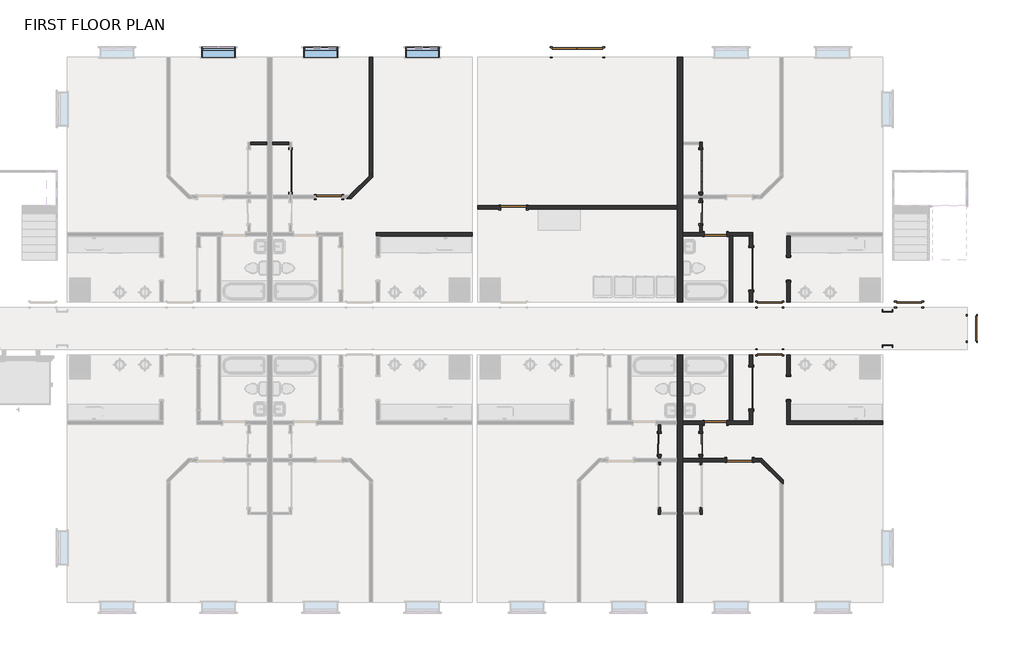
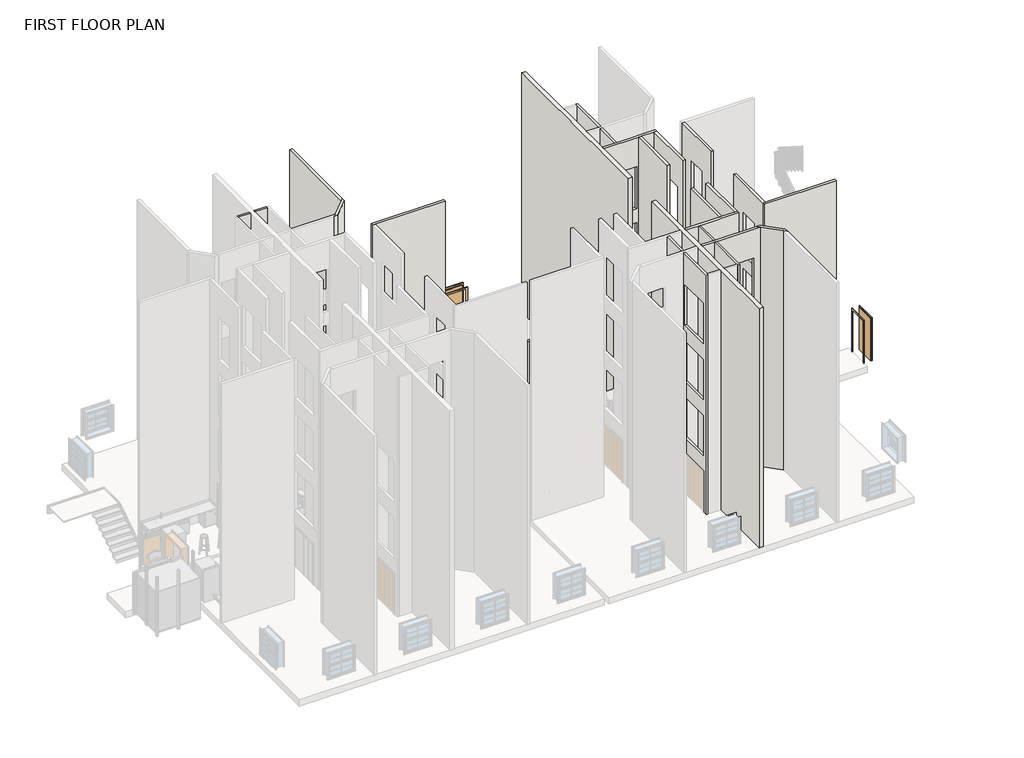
# One storey, part 3 of 7: 22 walls, 20 doors, 3 windows.
"""IFC4 building model written with IfcOpenShell, lengths in millimetres."""

from ifc_helpers import new_model, si_unit, frame, origin, origin_with_axes, place, context, project, spatial, polyline, outline, extrude, faceted_brep, transform, mapped, element, save
from components import door_3f50ce46, door_64f38517, door_5b7037ea, door_d932cd56, door_980512ef, door_bd9614a2, door_ff2ed9a9, door_670c294a, door_5d578f69, m_single_flush_3_x_7_d4803db9, m_single_flush_3_x_7_38056b6e, m_single_flush_3_x_7_309cf6f8, door_dc1527fd, door_ed16ebbe, door_053de108, door_d5256492, door_ef2e73a9, window_4464fd46, window_28d7aabf

model = new_model("IFC4")

# Units and contexts
model_context = context("Model", 3, world=origin())
ifc_project = project(units=[si_unit("LENGTHUNIT", "METRE", prefix="MILLI")], contexts=[model_context])

# Site, building, storey
site = spatial("IfcSite", under=ifc_project)
building = spatial("IfcBuilding", under=site)
storey = spatial("IfcBuildingStorey", under=building, Name="FIRST FLOOR PLAN", Elevation=0.0)

# Doors
placement = place(None, origin())
door_shape = door_3f50ce46(model_context)
element("IfcDoor", 1, ObjectType="Door-Bifold_2-Panel_Flush_SlimFold_Dunbarton : 2'- 6\" x 6' - 8\"", at=placement, inside=storey, context=model_context, shape_type="MappedRepresentation", body=[
    mapped(door_shape, transform((17708.9209578, 9824.3262881, 0.0), x_axis=(0.0, -1.0, 0.0), y_axis=(1.0, 0.0, 0.0), z_axis=(0.0, 0.0, 1.0))),
])
element("IfcDoor", 2, ObjectType="Door-Bifold_2-Panel_Flush_SlimFold_Dunbarton : 2'- 6\" x 6' - 8\"", at=placement, inside=storey, context=model_context, shape_type="MappedRepresentation", body=[
    mapped(door_shape, transform((16176.4960171, 1175.3012881, 0.0), x_axis=(0.0, 1.0, 0.0), y_axis=(-1.0, 0.0, 0.0), z_axis=(0.0, 0.0, 1.0))),
])
door_2_shape = door_64f38517(model_context)
element("IfcDoor", 3, ObjectType="Door-Bifold_2-Panel_Flush_SlimFold_Dunbarton : 2'- 6\" x 6' - 8\"", at=placement, inside=storey, context=model_context, shape_type="MappedRepresentation", body=[
    mapped(door_2_shape, transform((17708.9209578, 1175.3012881, 0.0), x_axis=(0.0, 1.0, 0.0), y_axis=(-1.0, 0.0, 0.0), z_axis=(0.0, 0.0, 1.0))),
])
door_3_shape = door_5b7037ea(model_context)
element("IfcDoor", 4, ObjectType="Door-Bifold 4-Panel Flush SlimFold_Dunbarton : 5'- 0\" x 6' - 8\"", at=placement, inside=storey, context=model_context, shape_type="MappedRepresentation", body=[
    mapped(door_3_shape, transform((2885.3209578, 11195.9262881, 0.0), x_axis=(0.0, -1.0, 0.0), y_axis=(1.0, 0.0, 0.0), z_axis=(0.0, 0.0, 1.0))),
])
element("IfcDoor", 5, ObjectType="Door-Bifold 4-Panel Flush SlimFold_Dunbarton : 5'- 0\" x 6' - 8\"", at=placement, inside=storey, context=model_context, shape_type="MappedRepresentation", body=[
    mapped(door_3_shape, transform((17708.9209578, 11195.9262881, 0.0), x_axis=(0.0, -1.0, 0.0), y_axis=(1.0, 0.0, 0.0), z_axis=(0.0, 0.0, 1.0))),
])
door_4_shape = door_d932cd56(model_context)
element("IfcDoor", 6, ObjectType="Door-Bifold 4-Panel Flush SlimFold_Dunbarton : 5'- 0\" x 6' - 8\"", at=placement, inside=storey, context=model_context, shape_type="MappedRepresentation", body=[
    mapped(door_4_shape, transform((19526.6084578, 7654.2137881, 0.0), x_axis=(0.0, -1.0, 0.0), y_axis=(1.0, 0.0, 0.0), z_axis=(0.0, 0.0, 1.0))),
])
door_5_shape = door_980512ef(model_context)
element("IfcDoor", 7, ObjectType="Door-Bifold 4-Panel Flush SlimFold_Dunbarton : 5'- 0\" x 6' - 8\"", at=placement, inside=storey, context=model_context, shape_type="MappedRepresentation", body=[
    mapped(door_5_shape, transform((19526.6084578, 3345.4137881, 0.0), x_axis=(0.0, 1.0, 0.0), y_axis=(-1.0, 0.0, 0.0), z_axis=(0.0, 0.0, 1.0))),
])
door_6_shape = door_bd9614a2(model_context)
element("IfcDoor", 8, ObjectType="Double-Flush : 72\" x 84\"", at=placement, inside=storey, context=model_context, shape_type="MappedRepresentation", body=[
    mapped(door_6_shape, transform((13236.6084875, 15479.2137881, 0.0), x_axis=(1.0, 0.0, 0.0), y_axis=(0.0, 1.0, 0.0), z_axis=(0.0, 0.0, 1.0))),
])
door_7_shape = door_ff2ed9a9(model_context)
element("IfcDoor", 9, ObjectType="M_Opening-Cased : 2'-10\"", at=placement, inside=storey, context=model_context, shape_type="MappedRepresentation", body=[
    mapped(door_7_shape, transform((20853.6709875, 3337.2251313, 0.0), x_axis=(0.0, -1.0, 0.0), y_axis=(1.0, 0.0, 0.0), z_axis=(0.0, 0.0, 1.0))),
])
door_8_shape = door_670c294a(model_context)
element("IfcDoor", 10, ObjectType="M_Opening-Cased : 2'-10\"", at=placement, inside=storey, context=model_context, shape_type="MappedRepresentation", body=[
    mapped(door_8_shape, transform((20853.6709875, 7662.4024448, 0.0), x_axis=(0.0, 1.0, 0.0), y_axis=(-1.0, 0.0, 0.0), z_axis=(0.0, 0.0, 1.0))),
])
door_9_shape = door_5d578f69(model_context)
element("IfcDoor", 11, ObjectType="M_Opening-Cased : 4'-0\"", at=placement, inside=storey, context=model_context, shape_type="MappedRepresentation", body=[
    mapped(door_9_shape, transform((24432.1084875, 5508.0024448, 0.0), x_axis=(0.0, 1.0, 0.0), y_axis=(-1.0, 0.0, 0.0), z_axis=(0.0, 0.0, 1.0))),
])
m_single_flush_3_x_7_shape = m_single_flush_3_x_7_d4803db9(model_context)
element("IfcDoor", 12, ObjectType="M_Single-Flush : 3' x 7'", at=placement, inside=storey, context=model_context, shape_type="MappedRepresentation", body=[
    mapped(m_single_flush_3_x_7_shape, transform((4266.1959875, 10252.9512881, 0.0), x_axis=(1.0, 0.0, 0.0), y_axis=(0.0, 1.0, 0.0), z_axis=(0.0, 0.0, 1.0))),
])
m_single_flush_3_x_7_2_shape = m_single_flush_3_x_7_38056b6e(model_context)
element("IfcDoor", 13, ObjectType="M_Single-Flush : 3' x 7'", at=placement, inside=storey, context=model_context, shape_type="MappedRepresentation", body=[
    mapped(m_single_flush_3_x_7_2_shape, transform((19089.7959875, 746.6762881, 0.0), x_axis=(1.0, 0.0, 0.0), y_axis=(0.0, 1.0, 0.0), z_axis=(0.0, 0.0, 1.0))),
])
element("IfcDoor", 14, ObjectType="M_Single-Flush : 3' x 7'", at=placement, inside=storey, context=model_context, shape_type="MappedRepresentation", body=[
    mapped(m_single_flush_3_x_7_2_shape, transform((10922.9084875, 9875.1262881, 0.0), x_axis=(-1.0, 0.0, 0.0), y_axis=(0.0, -1.0, 0.0), z_axis=(0.0, 0.0, 1.0))),
])
m_single_flush_3_x_7_3_shape = m_single_flush_3_x_7_309cf6f8(model_context)
element("IfcDoor", 15, ObjectType="M_Single-Flush : 3' x 7'", at=placement, inside=storey, context=model_context, shape_type="MappedRepresentation", body=[
    mapped(m_single_flush_3_x_7_3_shape, transform((25216.7084875, 6363.4137881, 0.0), x_axis=(-1.0, 0.0, 0.0), y_axis=(0.0, -1.0, 0.0), z_axis=(0.0, 0.0, 1.0))),
])
door_10_shape = door_dc1527fd(model_context)
element("IfcDoor", 16, ObjectType="Single-Flush : 32\" X 84\"", at=placement, inside=storey, context=model_context, shape_type="MappedRepresentation", body=[
    mapped(door_10_shape, transform((18226.1959875, 2089.7012881, 0.0), x_axis=(1.0, 0.0, 0.0), y_axis=(0.0, 1.0, 0.0), z_axis=(0.0, 0.0, 1.0))),
])
door_11_shape = door_ed16ebbe(model_context)
element("IfcDoor", 17, ObjectType="Single-Flush : 32\" X 84\"", at=placement, inside=storey, context=model_context, shape_type="MappedRepresentation", body=[
    mapped(door_11_shape, transform((18226.1959875, 8909.9262881, 0.0), x_axis=(1.0, 0.0, 0.0), y_axis=(0.0, 1.0, 0.0), z_axis=(0.0, 0.0, 1.0))),
])
door_12_shape = door_053de108(model_context)
element("IfcDoor", 18, ObjectType="Single-Flush : 36' x 84\"", at=placement, inside=storey, context=model_context, shape_type="MappedRepresentation", body=[
    mapped(door_12_shape, transform((20182.1584875, 6363.4137881, 0.0), x_axis=(1.0, 0.0, 0.0), y_axis=(0.0, 1.0, 0.0), z_axis=(0.0, 0.0, 1.0))),
])
door_13_shape = door_d5256492(model_context)
element("IfcDoor", 19, ObjectType="Single-Flush : 36' x 84\"", at=placement, inside=storey, context=model_context, shape_type="MappedRepresentation", body=[
    mapped(door_13_shape, transform((20182.1584875, 4636.2137881, 0.0), x_axis=(1.0, 0.0, 0.0), y_axis=(0.0, 1.0, 0.0), z_axis=(0.0, 0.0, 1.0))),
])
door_14_shape = door_ef2e73a9(model_context)
element("IfcDoor", 20, ObjectType="Single-Flush : 36' x 84\"", at=placement, inside=storey, context=model_context, shape_type="MappedRepresentation", body=[
    mapped(door_14_shape, transform((27483.0237309, 5499.8137881, 0.0), x_axis=(0.0, -1.0, 0.0), y_axis=(1.0, 0.0, 0.0), z_axis=(0.0, 0.0, 1.0))),
])

# Walls
element("IfcWall", 21, ObjectType="A30A - 8\" MASONRY WALL", at=placement, inside=storey, context=model_context, shape_type="Brep", body=[
    faceted_brep([(16845.7084875, 15304.2137881, 0.0), (16845.7084875, 9937.0387881, 0.0), (16845.7084875, 9813.2137881, 0.0), (16845.7084875, 6460.4137881, 0.0), (16845.7084875, 6460.4137881, 12141.2), (16845.7084875, 8848.0137881, 12141.2), (16845.7084875, 8971.8387881, 12141.2), (16845.7084875, 10191.0387881, 12141.2), (16845.7084875, 10314.8637881, 12141.2), (16845.7084875, 12138.9012881, 12141.2), (16845.7084875, 12227.8012881, 12141.2), (16845.7084875, 15304.2137881, 12141.2), (17039.7084875, 15304.2137881, 0.0), (17039.7084875, 15304.2137881, 12141.2), (17039.7084875, 12227.8012881, 12141.2), (17039.7084875, 12138.9012881, 12141.2), (17039.7084875, 10314.8637881, 12141.2), (17039.7084875, 10191.0387881, 12141.2), (17039.7084875, 8971.8387881, 12141.2), (17039.7084875, 8848.0137881, 12141.2), (17039.7084875, 6460.4137881, 12141.2), (17039.7084875, 6460.4137881, 0.0), (17039.7084875, 8848.0137881, 0.0), (17039.7084875, 8971.8387881, 0.0), (17039.7084875, 10191.0387881, 0.0), (17039.7084875, 10314.8637881, 0.0), (17039.7084875, 12138.9012881, 0.0), (17039.7084875, 12227.8012881, 0.0)], [[[0, 1, 2, 3, 4, 5, 6, 7, 8, 9, 10, 11]], [[12, 13, 14, 15, 16, 17, 18, 19, 20, 21, 22, 23, 24, 25, 26, 27]], [[3, 2, 1, 0, 12, 27, 26, 25, 24, 23, 22, 21]], [[11, 10, 9, 8, 7, 6, 5, 4, 20, 19, 18, 17, 16, 15, 14, 13]], [[0, 11, 13, 12]], [[4, 3, 21, 20]]]),
])
element("IfcWall", 22, ObjectType="A30A - 8\" MASONRY WALL", at=placement, inside=storey, context=model_context, shape_type="Brep", body=[
    faceted_brep([(17039.7084875, -4401.5862119, 0.0), (17039.7084875, -1228.1737119, 0.0), (17039.7084875, -1139.2737119, 0.0), (17039.7084875, 684.7637881, 0.0), (17039.7084875, 808.5887881, 0.0), (17039.7084875, 2027.7887881, 0.0), (17039.7084875, 2151.6137881, 0.0), (17039.7084875, 4539.2137881, 0.0), (17039.7084875, 4539.2137881, 12141.2), (17039.7084875, 2151.6137881, 12141.2), (17039.7084875, 2027.7887881, 12141.2), (17039.7084875, 808.5887881, 12141.2), (17039.7084875, 684.7637881, 12141.2), (17039.7084875, -1139.2737119, 12141.2), (17039.7084875, -1228.1737119, 12141.2), (17039.7084875, -4401.5862119, 12141.2), (16845.7084875, -4401.5862119, 0.0), (16845.7084875, -4401.5862119, 12141.2), (16845.7084875, -1228.1737119, 12141.2), (16845.7084875, -1139.2737119, 12141.2), (16845.7084875, 684.7637881, 12141.2), (16845.7084875, 808.5887881, 12141.2), (16845.7084875, 2027.7887881, 12141.2), (16845.7084875, 2151.6137881, 12141.2), (16845.7084875, 4539.2137881, 12141.2), (16845.7084875, 4539.2137881, 0.0), (16845.7084875, 2151.6137881, 0.0), (16845.7084875, 2027.7887881, 0.0), (16845.7084875, 808.5887881, 0.0), (16845.7084875, 684.7637881, 0.0), (16845.7084875, -1139.2737119, 0.0), (16845.7084875, -1228.1737119, 0.0)], [[[0, 1, 2, 3, 4, 5, 6, 7, 8, 9, 10, 11, 12, 13, 14, 15]], [[16, 17, 18, 19, 20, 21, 22, 23, 24, 25, 26, 27, 28, 29, 30, 31]], [[7, 6, 5, 4, 3, 2, 1, 0, 16, 31, 30, 29, 28, 27, 26, 25]], [[15, 14, 13, 12, 11, 10, 9, 8, 24, 23, 22, 21, 20, 19, 18, 17]], [[0, 15, 17, 16]], [[8, 7, 25, 24]]]),
])
element("IfcWall", 23, ObjectType="Generic - 3 1/2\"", at=placement, inside=storey, context=model_context, shape_type="SweptSolid", body=[
    extrude(outline(polyline([(2021.3084875, 12138.9012881), (1411.7084875, 12138.9012881), (1411.7084875, 12227.8012881), (2021.3084875, 12227.8012881), (2021.3084875, 12138.9012881)])), origin_with_axes(), (0.0, 0.0, 1.0), 12141.2),
])
element("IfcWall", 24, ObjectType="Generic - 3 1/2\"", at=placement, inside=storey, context=model_context, shape_type="SweptSolid", body=[
    extrude(outline(polyline([(2215.3084875, 12227.8012881), (2824.9084875, 12227.8012881), (2824.9084875, 12138.9012881), (2215.3084875, 12138.9012881), (2215.3084875, 12227.8012881)])), origin_with_axes(), (0.0, 0.0, 1.0), 12141.2),
])
element("IfcWall", 25, ObjectType="Generic - 3 1/2\"", at=placement, inside=storey, context=model_context, shape_type="Brep", body=[
    faceted_brep([(17737.4084875, 12227.8012881, 0.0), (17737.4084875, 12227.8012881, 12141.2), (17737.4084875, 10314.8637881, 12141.2), (17737.4084875, 10314.8637881, 0.0), (17737.4084875, 10433.9262881, 0.0), (17737.4084875, 10433.9262881, 2032.0), (17737.4084875, 11957.9262881, 2032.0), (17737.4084875, 11957.9262881, 0.0), (17737.4084875, 11961.1012881, 4876.8), (17737.4084875, 11961.1012881, 2844.8), (17737.4084875, 10437.1012881, 2844.8), (17737.4084875, 10437.1012881, 4876.8), (17737.4084875, 11961.1012881, 7721.6), (17737.4084875, 11961.1012881, 5689.6), (17737.4084875, 10437.1012881, 5689.6), (17737.4084875, 10437.1012881, 7721.6), (17737.4084875, 11961.1012881, 10566.4), (17737.4084875, 11961.1012881, 8534.4), (17737.4084875, 10437.1012881, 8534.4), (17737.4084875, 10437.1012881, 10566.4), (17648.5084875, 12227.8012881, 12141.2), (17648.5084875, 12227.8012881, 0.0), (17648.5084875, 12138.9012881, 0.0), (17648.5084875, 11957.9262881, 0.0), (17648.5084875, 11957.9262881, 2032.0), (17648.5084875, 10433.9262881, 2032.0), (17648.5084875, 10433.9262881, 0.0), (17648.5084875, 10314.8637881, 0.0), (17648.5084875, 10314.8637881, 12141.2), (17648.5084875, 12138.9012881, 12141.2), (17648.5084875, 11961.1012881, 2844.8), (17648.5084875, 11961.1012881, 4876.8), (17648.5084875, 10437.1012881, 4876.8), (17648.5084875, 10437.1012881, 2844.8), (17648.5084875, 11961.1012881, 5689.6), (17648.5084875, 11961.1012881, 7721.6), (17648.5084875, 10437.1012881, 7721.6), (17648.5084875, 10437.1012881, 5689.6), (17648.5084875, 11961.1012881, 8534.4), (17648.5084875, 11961.1012881, 10566.4), (17648.5084875, 10437.1012881, 10566.4), (17648.5084875, 10437.1012881, 8534.4)], [[[0, 1, 2, 3, 4, 5, 6, 7], [8, 9, 10, 11], [12, 13, 14, 15], [16, 17, 18, 19]], [[20, 21, 22, 23, 24, 25, 26, 27, 28, 29], [30, 31, 32, 33], [34, 35, 36, 37], [38, 39, 40, 41]], [[21, 0, 7, 23, 22]], [[26, 4, 3, 27]], [[1, 20, 29, 28, 2]], [[1, 0, 21, 20]], [[25, 5, 4, 26]], [[5, 25, 24, 6]], [[6, 24, 23, 7]], [[3, 2, 28, 27]], [[31, 30, 9, 8]], [[32, 31, 8, 11]], [[33, 32, 11, 10]], [[30, 33, 10, 9]], [[35, 34, 13, 12]], [[36, 35, 12, 15]], [[37, 36, 15, 14]], [[34, 37, 14, 13]], [[39, 38, 17, 16]], [[40, 39, 16, 19]], [[41, 40, 19, 18]], [[38, 41, 18, 17]]]),
    faceted_brep([(17737.4084875, 8971.8387881, 12141.2), (17737.4084875, 8971.8387881, 0.0), (17737.4084875, 9290.9262881, 0.0), (17737.4084875, 9290.9262881, 2032.0), (17737.4084875, 10052.9262881, 2032.0), (17737.4084875, 10052.9262881, 0.0), (17737.4084875, 10191.0387881, 0.0), (17737.4084875, 10191.0387881, 12141.2), (17737.4084875, 9297.2762881, 2844.8), (17737.4084875, 9297.2762881, 4876.8), (17737.4084875, 10059.2762881, 4876.8), (17737.4084875, 10059.2762881, 2844.8), (17737.4084875, 9297.2762881, 5689.6), (17737.4084875, 9297.2762881, 7721.6), (17737.4084875, 10059.2762881, 7721.6), (17737.4084875, 10059.2762881, 5689.6), (17737.4084875, 9297.2762881, 8534.4), (17737.4084875, 9297.2762881, 10566.4), (17737.4084875, 10059.2762881, 10566.4), (17737.4084875, 10059.2762881, 8534.4), (17648.5084875, 8971.8387881, 0.0), (17648.5084875, 8971.8387881, 12141.2), (17648.5084875, 10191.0387881, 12141.2), (17648.5084875, 10191.0387881, 0.0), (17648.5084875, 10052.9262881, 0.0), (17648.5084875, 10052.9262881, 2032.0), (17648.5084875, 9290.9262881, 2032.0), (17648.5084875, 9290.9262881, 0.0), (17648.5084875, 9297.2762881, 4876.8), (17648.5084875, 9297.2762881, 2844.8), (17648.5084875, 10059.2762881, 2844.8), (17648.5084875, 10059.2762881, 4876.8), (17648.5084875, 9297.2762881, 7721.6), (17648.5084875, 9297.2762881, 5689.6), (17648.5084875, 10059.2762881, 5689.6), (17648.5084875, 10059.2762881, 7721.6), (17648.5084875, 9297.2762881, 10566.4), (17648.5084875, 9297.2762881, 8534.4), (17648.5084875, 10059.2762881, 8534.4), (17648.5084875, 10059.2762881, 10566.4)], [[[0, 1, 2, 3, 4, 5, 6, 7], [8, 9, 10, 11], [12, 13, 14, 15], [16, 17, 18, 19]], [[20, 21, 22, 23, 24, 25, 26, 27], [28, 29, 30, 31], [32, 33, 34, 35], [36, 37, 38, 39]], [[1, 20, 27, 2]], [[5, 24, 23, 6]], [[21, 0, 7, 22]], [[7, 6, 23, 22]], [[1, 0, 21, 20]], [[25, 4, 3, 26]], [[4, 25, 24, 5]], [[26, 3, 2, 27]], [[9, 8, 29, 28]], [[10, 9, 28, 31]], [[11, 10, 31, 30]], [[8, 11, 30, 29]], [[13, 12, 33, 32]], [[14, 13, 32, 35]], [[15, 14, 35, 34]], [[12, 15, 34, 33]], [[17, 16, 37, 36]], [[18, 17, 36, 39]], [[19, 18, 39, 38]], [[16, 19, 38, 37]]]),
])
element("IfcWall", 26, ObjectType="Generic - 3 1/2\"", at=placement, inside=storey, context=model_context, shape_type="Brep", body=[
    faceted_brep([(17648.5084875, -1228.1737119, 0.0), (17648.5084875, -1228.1737119, 12141.2), (17648.5084875, -1139.2737119, 12141.2), (17648.5084875, 684.7637881, 12141.2), (17648.5084875, 684.7637881, 0.0), (17648.5084875, 565.7012881, 0.0), (17648.5084875, 565.7012881, 2032.0), (17648.5084875, -958.2987119, 2032.0), (17648.5084875, -958.2987119, 0.0), (17648.5084875, -1139.2737119, 0.0), (17648.5084875, -961.4737119, 4876.8), (17648.5084875, -961.4737119, 2844.8), (17648.5084875, 562.5262881, 2844.8), (17648.5084875, 562.5262881, 4876.8), (17648.5084875, -961.4737119, 7721.6), (17648.5084875, -961.4737119, 5689.6), (17648.5084875, 562.5262881, 5689.6), (17648.5084875, 562.5262881, 7721.6), (17648.5084875, -961.4737119, 10566.4), (17648.5084875, -961.4737119, 8534.4), (17648.5084875, 562.5262881, 8534.4), (17648.5084875, 562.5262881, 10566.4), (17737.4084875, -1228.1737119, 12141.2), (17737.4084875, -1228.1737119, 0.0), (17737.4084875, -958.2987119, 0.0), (17737.4084875, -958.2987119, 2032.0), (17737.4084875, 565.7012881, 2032.0), (17737.4084875, 565.7012881, 0.0), (17737.4084875, 684.7637881, 0.0), (17737.4084875, 684.7637881, 12141.2), (17737.4084875, -961.4737119, 2844.8), (17737.4084875, -961.4737119, 4876.8), (17737.4084875, 562.5262881, 4876.8), (17737.4084875, 562.5262881, 2844.8), (17737.4084875, -961.4737119, 5689.6), (17737.4084875, -961.4737119, 7721.6), (17737.4084875, 562.5262881, 7721.6), (17737.4084875, 562.5262881, 5689.6), (17737.4084875, -961.4737119, 8534.4), (17737.4084875, -961.4737119, 10566.4), (17737.4084875, 562.5262881, 10566.4), (17737.4084875, 562.5262881, 8534.4)], [[[0, 1, 2, 3, 4, 5, 6, 7, 8, 9], [10, 11, 12, 13], [14, 15, 16, 17], [18, 19, 20, 21]], [[22, 23, 24, 25, 26, 27, 28, 29], [30, 31, 32, 33], [34, 35, 36, 37], [38, 39, 40, 41]], [[23, 0, 9, 8, 24]], [[27, 5, 4, 28]], [[1, 22, 29, 3, 2]], [[1, 0, 23, 22]], [[26, 6, 5, 27]], [[6, 26, 25, 7]], [[7, 25, 24, 8]], [[4, 3, 29, 28]], [[31, 30, 11, 10]], [[32, 31, 10, 13]], [[33, 32, 13, 12]], [[30, 33, 12, 11]], [[35, 34, 15, 14]], [[36, 35, 14, 17]], [[37, 36, 17, 16]], [[34, 37, 16, 15]], [[39, 38, 19, 18]], [[40, 39, 18, 21]], [[41, 40, 21, 20]], [[38, 41, 20, 19]]]),
    faceted_brep([(17648.5084875, 2027.7887881, 12141.2), (17648.5084875, 2027.7887881, 0.0), (17648.5084875, 1708.7012881, 0.0), (17648.5084875, 1708.7012881, 2032.0), (17648.5084875, 946.7012881, 2032.0), (17648.5084875, 946.7012881, 0.0), (17648.5084875, 808.5887881, 0.0), (17648.5084875, 808.5887881, 12141.2), (17648.5084875, 1734.1012881, 2844.8), (17648.5084875, 1734.1012881, 4876.8), (17648.5084875, 972.1012881, 4876.8), (17648.5084875, 972.1012881, 2844.8), (17648.5084875, 1734.1012881, 5689.6), (17648.5084875, 1734.1012881, 7721.6), (17648.5084875, 972.1012881, 7721.6), (17648.5084875, 972.1012881, 5689.6), (17648.5084875, 1734.1012881, 8534.4), (17648.5084875, 1734.1012881, 10566.4), (17648.5084875, 972.1012881, 10566.4), (17648.5084875, 972.1012881, 8534.4), (17737.4084875, 2027.7887881, 0.0), (17737.4084875, 2027.7887881, 12141.2), (17737.4084875, 808.5887881, 12141.2), (17737.4084875, 808.5887881, 0.0), (17737.4084875, 946.7012881, 0.0), (17737.4084875, 946.7012881, 2032.0), (17737.4084875, 1708.7012881, 2032.0), (17737.4084875, 1708.7012881, 0.0), (17737.4084875, 1734.1012881, 4876.8), (17737.4084875, 1734.1012881, 2844.8), (17737.4084875, 972.1012881, 2844.8), (17737.4084875, 972.1012881, 4876.8), (17737.4084875, 1734.1012881, 7721.6), (17737.4084875, 1734.1012881, 5689.6), (17737.4084875, 972.1012881, 5689.6), (17737.4084875, 972.1012881, 7721.6), (17737.4084875, 1734.1012881, 10566.4), (17737.4084875, 1734.1012881, 8534.4), (17737.4084875, 972.1012881, 8534.4), (17737.4084875, 972.1012881, 10566.4)], [[[0, 1, 2, 3, 4, 5, 6, 7], [8, 9, 10, 11], [12, 13, 14, 15], [16, 17, 18, 19]], [[20, 21, 22, 23, 24, 25, 26, 27], [28, 29, 30, 31], [32, 33, 34, 35], [36, 37, 38, 39]], [[1, 20, 27, 2]], [[5, 24, 23, 6]], [[21, 0, 7, 22]], [[7, 6, 23, 22]], [[1, 0, 21, 20]], [[25, 4, 3, 26]], [[4, 25, 24, 5]], [[26, 3, 2, 27]], [[8, 29, 28, 9]], [[31, 10, 9, 28]], [[30, 11, 10, 31]], [[11, 30, 29, 8]], [[13, 12, 33, 32]], [[14, 13, 32, 35]], [[15, 14, 35, 34]], [[12, 15, 34, 33]], [[17, 16, 37, 36]], [[18, 17, 36, 39]], [[19, 18, 39, 38]], [[16, 19, 38, 37]]]),
])
element("IfcWall", 27, ObjectType="Generic - 3 1/2\"", at=placement, inside=storey, context=model_context, shape_type="Brep", body=[
    faceted_brep([(16148.0084875, -1228.1737119, 0.0), (16148.0084875, -1228.1737119, 12141.2), (16148.0084875, 684.7637881, 12141.2), (16148.0084875, 684.7637881, 0.0), (16148.0084875, 565.7012881, 0.0), (16148.0084875, 565.7012881, 2032.0), (16148.0084875, -958.2987119, 2032.0), (16148.0084875, -958.2987119, 0.0), (16148.0084875, 562.5262881, 2844.8), (16148.0084875, 562.5262881, 4876.8), (16148.0084875, -961.4737119, 4876.8), (16148.0084875, -961.4737119, 2844.8), (16148.0084875, 562.5262881, 5689.6), (16148.0084875, 562.5262881, 7721.6), (16148.0084875, -961.4737119, 7721.6), (16148.0084875, -961.4737119, 5689.6), (16148.0084875, 562.5262881, 8534.4), (16148.0084875, 562.5262881, 10566.4), (16148.0084875, -961.4737119, 10566.4), (16148.0084875, -961.4737119, 8534.4), (16236.9084875, -1228.1737119, 12141.2), (16236.9084875, -1228.1737119, 0.0), (16236.9084875, -1139.2737119, 0.0), (16236.9084875, -958.2987119, 0.0), (16236.9084875, -958.2987119, 2032.0), (16236.9084875, 565.7012881, 2032.0), (16236.9084875, 565.7012881, 0.0), (16236.9084875, 684.7637881, 0.0), (16236.9084875, 684.7637881, 12141.2), (16236.9084875, -1139.2737119, 12141.2), (16236.9084875, 562.5262881, 4876.8), (16236.9084875, 562.5262881, 2844.8), (16236.9084875, -961.4737119, 2844.8), (16236.9084875, -961.4737119, 4876.8), (16236.9084875, 562.5262881, 7721.6), (16236.9084875, 562.5262881, 5689.6), (16236.9084875, -961.4737119, 5689.6), (16236.9084875, -961.4737119, 7721.6), (16236.9084875, 562.5262881, 10566.4), (16236.9084875, 562.5262881, 8534.4), (16236.9084875, -961.4737119, 8534.4), (16236.9084875, -961.4737119, 10566.4)], [[[0, 1, 2, 3, 4, 5, 6, 7], [8, 9, 10, 11], [12, 13, 14, 15], [16, 17, 18, 19]], [[20, 21, 22, 23, 24, 25, 26, 27, 28, 29], [30, 31, 32, 33], [34, 35, 36, 37], [38, 39, 40, 41]], [[21, 0, 7, 23, 22]], [[26, 4, 3, 27]], [[1, 20, 29, 28, 2]], [[1, 0, 21, 20]], [[25, 5, 4, 26]], [[5, 25, 24, 6]], [[6, 24, 23, 7]], [[3, 2, 28, 27]], [[9, 8, 31, 30]], [[10, 9, 30, 33]], [[11, 10, 33, 32]], [[8, 11, 32, 31]], [[13, 12, 35, 34]], [[14, 13, 34, 37]], [[15, 14, 37, 36]], [[12, 15, 36, 35]], [[17, 16, 39, 38]], [[18, 17, 38, 41]], [[19, 18, 41, 40]], [[16, 19, 40, 39]]]),
    faceted_brep([(16148.0084875, 2027.7887881, 12141.2), (16148.0084875, 2027.7887881, 0.0), (16148.0084875, 1708.7012881, 0.0), (16148.0084875, 1708.7012881, 2032.0), (16148.0084875, 946.7012881, 2032.0), (16148.0084875, 946.7012881, 0.0), (16148.0084875, 808.5887881, 0.0), (16148.0084875, 808.5887881, 12141.2), (16148.0084875, 1734.1012881, 2844.8), (16148.0084875, 1734.1012881, 4876.8), (16148.0084875, 972.1012881, 4876.8), (16148.0084875, 972.1012881, 2844.8), (16148.0084875, 1734.1012881, 5689.6), (16148.0084875, 1734.1012881, 7721.6), (16148.0084875, 972.1012881, 7721.6), (16148.0084875, 972.1012881, 5689.6), (16148.0084875, 1734.1012881, 8534.4), (16148.0084875, 1734.1012881, 10566.4), (16148.0084875, 972.1012881, 10566.4), (16148.0084875, 972.1012881, 8534.4), (16236.9084875, 2027.7887881, 0.0), (16236.9084875, 2027.7887881, 12141.2), (16236.9084875, 808.5887881, 12141.2), (16236.9084875, 808.5887881, 0.0), (16236.9084875, 946.7012881, 0.0), (16236.9084875, 946.7012881, 2032.0), (16236.9084875, 1708.7012881, 2032.0), (16236.9084875, 1708.7012881, 0.0), (16236.9084875, 1734.1012881, 4876.8), (16236.9084875, 1734.1012881, 2844.8), (16236.9084875, 972.1012881, 2844.8), (16236.9084875, 972.1012881, 4876.8), (16236.9084875, 1734.1012881, 7721.6), (16236.9084875, 1734.1012881, 5689.6), (16236.9084875, 972.1012881, 5689.6), (16236.9084875, 972.1012881, 7721.6), (16236.9084875, 1734.1012881, 10566.4), (16236.9084875, 1734.1012881, 8534.4), (16236.9084875, 972.1012881, 8534.4), (16236.9084875, 972.1012881, 10566.4)], [[[0, 1, 2, 3, 4, 5, 6, 7], [8, 9, 10, 11], [12, 13, 14, 15], [16, 17, 18, 19]], [[20, 21, 22, 23, 24, 25, 26, 27], [28, 29, 30, 31], [32, 33, 34, 35], [36, 37, 38, 39]], [[1, 20, 27, 2]], [[5, 24, 23, 6]], [[21, 0, 7, 22]], [[7, 6, 23, 22]], [[1, 0, 21, 20]], [[25, 4, 3, 26]], [[4, 25, 24, 5]], [[26, 3, 2, 27]], [[8, 29, 28, 9]], [[31, 10, 9, 28]], [[30, 11, 10, 31]], [[11, 30, 29, 8]], [[13, 12, 33, 32]], [[14, 13, 32, 35]], [[15, 14, 35, 34]], [[12, 15, 34, 33]], [[17, 16, 37, 36]], [[18, 17, 36, 39]], [[19, 18, 39, 38]], [[16, 19, 38, 37]]]),
])
element("IfcWall", 28, ObjectType="Generic - 4 7/8\"", at=placement, inside=storey, context=model_context, shape_type="SweptSolid", body=[
    extrude(outline(polyline([(0.0, 9627.5084875), (0.0, 10465.7084875), (2133.6, 10465.7084875), (2133.6, 11380.1084875), (0.0, 11380.1084875), (0.0, 16845.7084875), (2844.8, 16845.7084875), (2844.8, 9627.5084875), (0.0, 9627.5084875)])), frame((0.0, 9813.2137881, 0.0), z_axis=(0.0, 1.0, 0.0), x_axis=(0.0, 0.0, 1.0)), (0.0, 0.0, 1.0), 123.825),
])
element("IfcWall", 29, ObjectType="Generic - 4 7/8\"", at=placement, inside=storey, context=model_context, shape_type="SweptSolid", body=[
    extrude(outline(polyline([(5713.9959875, 11018.644227), (5713.9959875, 15304.2137881), (5837.8209875, 15304.2137881), (5837.8209875, 11142.469227), (5713.9959875, 11018.644227)])), origin_with_axes(), (0.0, 0.0, 1.0), 12141.2),
])
element("IfcWall", 30, ObjectType="Generic - 4 7/8\"", at=placement, inside=storey, context=model_context, shape_type="Brep", body=[
    faceted_brep([(9433.5084875, 8971.8387881, 0.0), (5968.1584875, 8971.8387881, 0.0), (5968.1584875, 8971.8387881, 12141.2), (9433.5084875, 8971.8387881, 12141.2), (9433.5084875, 8848.0137881, 0.0), (9433.5084875, 8848.0137881, 12141.2), (6091.9834875, 8848.0137881, 12141.2), (5968.1584875, 8848.0137881, 12141.2), (5968.1584875, 8848.0137881, 0.0), (6091.9834875, 8848.0137881, 0.0)], [[[0, 1, 2, 3]], [[4, 5, 6, 7, 8, 9]], [[1, 0, 4, 9, 8]], [[3, 2, 7, 6, 5]], [[2, 1, 8, 7]], [[0, 3, 5, 4]]]),
])
element("IfcWall", 31, ObjectType="Generic - 4 7/8\"", at=placement, inside=storey, context=model_context, shape_type="Brep", body=[
    faceted_brep([(5061.5055429, 10191.0387881, 0.0), (5837.8209875, 10967.3542326, 0.0), (5837.8209875, 10967.3542326, 12141.2), (5061.5055429, 10191.0387881, 12141.2), (4886.3905485, 10191.0387881, 0.0), (4886.3905485, 10191.0387881, 12141.2), (5010.2155485, 10314.8637881, 12141.2), (5713.9959875, 11018.644227, 12141.2), (5837.8209875, 11142.469227, 12141.2), (5837.8209875, 11142.469227, 0.0), (5713.9959875, 11018.644227, 0.0), (5010.2155485, 10314.8637881, 0.0)], [[[0, 1, 2, 3]], [[4, 5, 6, 7, 8, 9, 10, 11]], [[1, 0, 4, 11, 10, 9]], [[3, 2, 8, 7, 6, 5]], [[2, 1, 9, 8]], [[0, 3, 5, 4]]]),
])
element("IfcWall", 32, ObjectType="Generic - 4 7/8\"", at=placement, inside=storey, context=model_context, shape_type="Brep", body=[
    faceted_brep([(19572.5584875, 8971.8387881, 0.0), (18632.5959875, 8971.8387881, 0.0), (18632.5959875, 8971.8387881, 2133.6), (17819.7959875, 8971.8387881, 2133.6), (17819.7959875, 8971.8387881, 0.0), (17737.4084875, 8971.8387881, 0.0), (17648.5084875, 8971.8387881, 0.0), (17039.7084875, 8971.8387881, 0.0), (17039.7084875, 8971.8387881, 12141.2), (17648.5084875, 8971.8387881, 12141.2), (17737.4084875, 8971.8387881, 12141.2), (19572.5584875, 8971.8387881, 12141.2), (17820.5959875, 8971.8387881, 2844.8), (18633.3959875, 8971.8387881, 2844.8), (18633.3959875, 8971.8387881, 4978.4), (17820.5959875, 8971.8387881, 4978.4), (17820.5959875, 8971.8387881, 5689.6), (18633.3959875, 8971.8387881, 5689.6), (18633.3959875, 8971.8387881, 7823.2), (17820.5959875, 8971.8387881, 7823.2), (17820.5959875, 8971.8387881, 8534.4), (18633.3959875, 8971.8387881, 8534.4), (18633.3959875, 8971.8387881, 10668.0), (17820.5959875, 8971.8387881, 10668.0), (18632.5959875, 8848.0137881, 2133.6), (18632.5959875, 8848.0137881, 0.0), (18715.3084875, 8848.0137881, 0.0), (18839.1334875, 8848.0137881, 0.0), (19448.7334875, 8848.0137881, 0.0), (19572.5584875, 8848.0137881, 0.0), (19572.5584875, 8848.0137881, 12141.2), (19448.7334875, 8848.0137881, 12141.2), (18839.1334875, 8848.0137881, 12141.2), (18715.3084875, 8848.0137881, 12141.2), (17039.7084875, 8848.0137881, 12141.2), (17039.7084875, 8848.0137881, 0.0), (17819.7959875, 8848.0137881, 0.0), (17819.7959875, 8848.0137881, 2133.6), (17820.5959875, 8848.0137881, 2844.8), (17820.5959875, 8848.0137881, 4978.4), (18633.3959875, 8848.0137881, 4978.4), (18633.3959875, 8848.0137881, 2844.8), (17820.5959875, 8848.0137881, 5689.6), (17820.5959875, 8848.0137881, 7823.2), (18633.3959875, 8848.0137881, 7823.2), (18633.3959875, 8848.0137881, 5689.6), (17820.5959875, 8848.0137881, 8534.4), (17820.5959875, 8848.0137881, 10668.0), (18633.3959875, 8848.0137881, 10668.0), (18633.3959875, 8848.0137881, 8534.4)], [[[0, 1, 2, 3, 4, 5, 6, 7, 8, 9, 10, 11], [12, 13, 14, 15], [16, 17, 18, 19], [20, 21, 22, 23]], [[24, 25, 26, 27, 28, 29, 30, 31, 32, 33, 34, 35, 36, 37], [38, 39, 40, 41], [42, 43, 44, 45], [46, 47, 48, 49]], [[36, 35, 7, 6, 5, 4]], [[29, 28, 27, 26, 25, 1, 0]], [[11, 10, 9, 8, 34, 33, 32, 31, 30]], [[2, 1, 25, 24]], [[3, 2, 24, 37]], [[4, 3, 37, 36]], [[0, 11, 30, 29]], [[8, 7, 35, 34]], [[13, 12, 38, 41]], [[14, 13, 41, 40]], [[15, 14, 40, 39]], [[12, 15, 39, 38]], [[17, 16, 42, 45]], [[18, 17, 45, 44]], [[19, 18, 44, 43]], [[16, 19, 43, 42]], [[21, 20, 46, 49]], [[22, 21, 49, 48]], [[23, 22, 48, 47]], [[20, 23, 47, 46]]]),
])
element("IfcWall", 33, ObjectType="Generic - 4 7/8\"", at=placement, inside=storey, context=model_context, shape_type="SweptSolid", body=[
    extrude(outline(polyline([(18715.3084875, 6460.4137881), (18715.3084875, 8848.0137881), (18839.1334875, 8848.0137881), (18839.1334875, 6460.4137881), (18715.3084875, 6460.4137881)])), origin_with_axes(), (0.0, 0.0, 1.0), 12141.2),
])
element("IfcWall", 34, ObjectType="Generic - 4 7/8\"", at=placement, inside=storey, context=model_context, shape_type="SweptSolid", body=[
    extrude(outline(polyline([(8848.0137881, 0.0), (8086.0137881, 0.0), (8086.0137881, 2133.6), (7222.4137881, 2133.6), (7222.4137881, 0.0), (6460.4137881, 0.0), (6460.4137881, 12141.2), (8848.0137881, 12141.2), (8848.0137881, 0.0)]), holes=[polyline([(7222.4137881, 4978.4), (7222.4137881, 2844.8), (8086.0137881, 2844.8), (8086.0137881, 4978.4), (7222.4137881, 4978.4)]), polyline([(7222.4137881, 7823.2), (7222.4137881, 5689.6), (8086.0137881, 5689.6), (8086.0137881, 7823.2), (7222.4137881, 7823.2)]), polyline([(7222.4137881, 10668.0), (7222.4137881, 8534.4), (8086.0137881, 8534.4), (8086.0137881, 10668.0), (7222.4137881, 10668.0)])]), frame((20791.7584875, 0.0, 0.0), z_axis=(1.0, 0.0, 0.0), x_axis=(0.0, 1.0, 0.0)), (0.0, 0.0, 1.0), 123.825),
])
element("IfcWall", 35, ObjectType="Generic - 4 7/8\"", at=placement, inside=storey, context=model_context, shape_type="SweptSolid", body=[
    extrude(outline(polyline([(6460.4137881, 12141.2), (8848.0137881, 12141.2), (8848.0137881, 0.0), (8416.2137881, 0.0), (8416.2137881, 2032.0), (6892.2137881, 2032.0), (6892.2137881, 0.0), (6460.4137881, 0.0), (6460.4137881, 12141.2)]), holes=[polyline([(8416.2137881, 2844.8), (8416.2137881, 4876.8), (6892.2137881, 4876.8), (6892.2137881, 2844.8), (8416.2137881, 2844.8)]), polyline([(8416.2137881, 5689.6), (8416.2137881, 7721.6), (6892.2137881, 7721.6), (6892.2137881, 5689.6), (8416.2137881, 5689.6)]), polyline([(8416.2137881, 8534.4), (8416.2137881, 10566.4), (6892.2137881, 10566.4), (6892.2137881, 8534.4), (8416.2137881, 8534.4)])]), frame((19448.7334875, 0.0, 0.0), z_axis=(1.0, 0.0, 0.0), x_axis=(0.0, 1.0, 0.0)), (0.0, 0.0, 1.0), 123.825),
])
element("IfcWall", 36, ObjectType="Generic - 4 7/8\"", at=placement, inside=storey, context=model_context, shape_type="Brep", body=[
    faceted_brep([(19572.5584875, 2151.6137881, 0.0), (19448.7334875, 2151.6137881, 0.0), (18839.1334875, 2151.6137881, 0.0), (18715.3084875, 2151.6137881, 0.0), (18632.5959875, 2151.6137881, 0.0), (18632.5959875, 2151.6137881, 2133.6), (17819.7959875, 2151.6137881, 2133.6), (17819.7959875, 2151.6137881, 0.0), (17039.7084875, 2151.6137881, 0.0), (17039.7084875, 2151.6137881, 12141.2), (18715.3084875, 2151.6137881, 12141.2), (18839.1334875, 2151.6137881, 12141.2), (19448.7334875, 2151.6137881, 12141.2), (19572.5584875, 2151.6137881, 12141.2), (17803.6084875, 2151.6137881, 2844.8), (18616.4084875, 2151.6137881, 2844.8), (18616.4084875, 2151.6137881, 4978.4), (17803.6084875, 2151.6137881, 4978.4), (17803.6084875, 2151.6137881, 5689.6), (18616.4084875, 2151.6137881, 5689.6), (18616.4084875, 2151.6137881, 7823.2), (17803.6084875, 2151.6137881, 7823.2), (17803.6084875, 2151.6137881, 8534.4), (18616.4084875, 2151.6137881, 8534.4), (18616.4084875, 2151.6137881, 10668.0), (17803.6084875, 2151.6137881, 10668.0), (18632.5959875, 2027.7887881, 2133.6), (18632.5959875, 2027.7887881, 0.0), (19572.5584875, 2027.7887881, 0.0), (19572.5584875, 2027.7887881, 12141.2), (17737.4084875, 2027.7887881, 12141.2), (17648.5084875, 2027.7887881, 12141.2), (17039.7084875, 2027.7887881, 12141.2), (17039.7084875, 2027.7887881, 0.0), (17648.5084875, 2027.7887881, 0.0), (17737.4084875, 2027.7887881, 0.0), (17819.7959875, 2027.7887881, 0.0), (17819.7959875, 2027.7887881, 2133.6), (17803.6084875, 2027.7887881, 2844.8), (17803.6084875, 2027.7887881, 4978.4), (18616.4084875, 2027.7887881, 4978.4), (18616.4084875, 2027.7887881, 2844.8), (17803.6084875, 2027.7887881, 5689.6), (17803.6084875, 2027.7887881, 7823.2), (18616.4084875, 2027.7887881, 7823.2), (18616.4084875, 2027.7887881, 5689.6), (17803.6084875, 2027.7887881, 8534.4), (17803.6084875, 2027.7887881, 10668.0), (18616.4084875, 2027.7887881, 10668.0), (18616.4084875, 2027.7887881, 8534.4)], [[[0, 1, 2, 3, 4, 5, 6, 7, 8, 9, 10, 11, 12, 13], [14, 15, 16, 17], [18, 19, 20, 21], [22, 23, 24, 25]], [[26, 27, 28, 29, 30, 31, 32, 33, 34, 35, 36, 37], [38, 39, 40, 41], [42, 43, 44, 45], [46, 47, 48, 49]], [[28, 27, 4, 3, 2, 1, 0]], [[36, 35, 34, 33, 8, 7]], [[13, 12, 11, 10, 9, 32, 31, 30, 29]], [[5, 4, 27, 26]], [[6, 5, 26, 37]], [[7, 6, 37, 36]], [[0, 13, 29, 28]], [[9, 8, 33, 32]], [[15, 14, 38, 41]], [[16, 15, 41, 40]], [[17, 16, 40, 39]], [[14, 17, 39, 38]], [[19, 18, 42, 45]], [[20, 19, 45, 44]], [[21, 20, 44, 43]], [[18, 21, 43, 42]], [[23, 22, 46, 49]], [[24, 23, 49, 48]], [[25, 24, 48, 47]], [[22, 25, 47, 46]]]),
])
element("IfcWall", 37, ObjectType="Generic - 4 7/8\"", at=placement, inside=storey, context=model_context, shape_type="SweptSolid", body=[
    extrude(outline(polyline([(18839.1334875, 4539.2137881), (18839.1334875, 2151.6137881), (18715.3084875, 2151.6137881), (18715.3084875, 4539.2137881), (18839.1334875, 4539.2137881)])), origin_with_axes(), (0.0, 0.0, 1.0), 12141.2),
])
element("IfcWall", 38, ObjectType="Generic - 4 7/8\"", at=placement, inside=storey, context=model_context, shape_type="Brep", body=[
    faceted_brep([(24257.1084875, 2151.6137881, 0.0), (20915.5834875, 2151.6137881, 0.0), (20791.7584875, 2151.6137881, 0.0), (20791.7584875, 2151.6137881, 12141.2), (20915.5834875, 2151.6137881, 12141.2), (24257.1084875, 2151.6137881, 12141.2), (24257.1084875, 2027.7887881, 0.0), (24257.1084875, 2027.7887881, 12141.2), (20791.7584875, 2027.7887881, 12141.2), (20791.7584875, 2027.7887881, 0.0)], [[[0, 1, 2, 3, 4, 5]], [[6, 7, 8, 9]], [[2, 1, 0, 6, 9]], [[5, 4, 3, 8, 7]], [[3, 2, 9, 8]], [[0, 5, 7, 6]]]),
])
element("IfcWall", 39, ObjectType="Generic - 4 7/8\"", at=placement, inside=storey, context=model_context, shape_type="SweptSolid", body=[
    extrude(outline(polyline([(2913.6137881, 2133.6), (2913.6137881, 0.0), (2151.6137881, 0.0), (2151.6137881, 12141.2), (4539.2137881, 12141.2), (4539.2137881, 0.0), (3777.2137881, 0.0), (3777.2137881, 2133.6), (2913.6137881, 2133.6)]), holes=[polyline([(3777.2137881, 4978.4), (2862.8137881, 4978.4), (2862.8137881, 2844.8), (3777.2137881, 2844.8), (3777.2137881, 4978.4)]), polyline([(3777.2137881, 7823.2), (2862.8137881, 7823.2), (2862.8137881, 5689.6), (3777.2137881, 5689.6), (3777.2137881, 7823.2)]), polyline([(3777.2137881, 10668.0), (2862.8137881, 10668.0), (2862.8137881, 8534.4), (3777.2137881, 8534.4), (3777.2137881, 10668.0)])]), frame((20791.7584875, 0.0, 0.0), z_axis=(1.0, 0.0, 0.0), x_axis=(0.0, 1.0, 0.0)), (0.0, 0.0, 1.0), 123.825),
])
element("IfcWall", 40, ObjectType="Generic - 4 7/8\"", at=placement, inside=storey, context=model_context, shape_type="SweptSolid", body=[
    extrude(outline(polyline([(2151.6137881, 12141.2), (4539.2137881, 12141.2), (4539.2137881, 0.0), (4107.4137881, 0.0), (4107.4137881, 2032.0), (2583.4137881, 2032.0), (2583.4137881, 0.0), (2151.6137881, 0.0), (2151.6137881, 12141.2)])), frame((19448.7334875, 0.0, 0.0), z_axis=(1.0, 0.0, 0.0), x_axis=(0.0, 1.0, 0.0)), (0.0, 0.0, 1.0), 123.825),
])
element("IfcWall", 41, ObjectType="Generic - 4 7/8\"", at=placement, inside=storey, context=model_context, shape_type="Brep", body=[
    faceted_brep([(19546.9959875, 684.7637881, 2133.6), (19546.9959875, 684.7637881, 0.0), (19833.8155485, 684.7637881, 0.0), (19833.8155485, 684.7637881, 12141.2), (17737.4084875, 684.7637881, 12141.2), (17648.5084875, 684.7637881, 12141.2), (17039.7084875, 684.7637881, 12141.2), (17039.7084875, 684.7637881, 0.0), (17648.5084875, 684.7637881, 0.0), (17737.4084875, 684.7637881, 0.0), (18632.5959875, 684.7637881, 0.0), (18632.5959875, 684.7637881, 2133.6), (18616.4084875, 684.7637881, 2844.8), (18616.4084875, 684.7637881, 4978.4), (19530.8084875, 684.7637881, 4978.4), (19530.8084875, 684.7637881, 2844.8), (18616.4084875, 684.7637881, 5689.6), (18616.4084875, 684.7637881, 7823.2), (19530.8084875, 684.7637881, 7823.2), (19530.8084875, 684.7637881, 5689.6), (18616.4084875, 684.7637881, 8534.4), (18616.4084875, 684.7637881, 10668.0), (19530.8084875, 684.7637881, 10668.0), (19530.8084875, 684.7637881, 8534.4), (19709.9905485, 808.5887881, 0.0), (19546.9959875, 808.5887881, 0.0), (19546.9959875, 808.5887881, 2133.6), (18632.5959875, 808.5887881, 2133.6), (18632.5959875, 808.5887881, 0.0), (17737.4084875, 808.5887881, 0.0), (17648.5084875, 808.5887881, 0.0), (17039.7084875, 808.5887881, 0.0), (17039.7084875, 808.5887881, 12141.2), (17648.5084875, 808.5887881, 12141.2), (17737.4084875, 808.5887881, 12141.2), (19709.9905485, 808.5887881, 12141.2), (18616.4084875, 808.5887881, 2844.8), (19530.8084875, 808.5887881, 2844.8), (19530.8084875, 808.5887881, 4978.4), (18616.4084875, 808.5887881, 4978.4), (18616.4084875, 808.5887881, 5689.6), (19530.8084875, 808.5887881, 5689.6), (19530.8084875, 808.5887881, 7823.2), (18616.4084875, 808.5887881, 7823.2), (18616.4084875, 808.5887881, 8534.4), (19530.8084875, 808.5887881, 8534.4), (19530.8084875, 808.5887881, 10668.0), (18616.4084875, 808.5887881, 10668.0)], [[[0, 1, 2, 3, 4, 5, 6, 7, 8, 9, 10, 11], [12, 13, 14, 15], [16, 17, 18, 19], [20, 21, 22, 23]], [[24, 25, 26, 27, 28, 29, 30, 31, 32, 33, 34, 35], [36, 37, 38, 39], [40, 41, 42, 43], [44, 45, 46, 47]], [[2, 1, 25, 24]], [[10, 9, 8, 7, 31, 30, 29, 28]], [[6, 5, 4, 3, 35, 34, 33, 32]], [[26, 25, 1, 0]], [[27, 26, 0, 11]], [[28, 27, 11, 10]], [[3, 2, 24, 35]], [[7, 6, 32, 31]], [[37, 36, 12, 15]], [[38, 37, 15, 14]], [[39, 38, 14, 13]], [[36, 39, 13, 12]], [[41, 40, 16, 19]], [[42, 41, 19, 18]], [[43, 42, 18, 17]], [[40, 43, 17, 16]], [[45, 44, 20, 23]], [[46, 45, 23, 22]], [[47, 46, 22, 21]], [[44, 47, 21, 20]]]),
])
element("IfcWall", 42, ObjectType="Generic - 4 7/8\"", at=placement, inside=storey, context=model_context, shape_type="Brep", body=[
    faceted_brep([(19709.9905485, 808.5887881, 0.0), (19833.8155485, 684.7637881, 0.0), (20537.5959875, -19.0166509, 0.0), (20661.4209875, -142.8416509, 0.0), (20661.4209875, -142.8416509, 12141.2), (20537.5959875, -19.0166509, 12141.2), (19833.8155485, 684.7637881, 12141.2), (19709.9905485, 808.5887881, 12141.2), (19885.1055429, 808.5887881, 0.0), (19885.1055429, 808.5887881, 12141.2), (20661.4209875, 32.2733435, 12141.2), (20661.4209875, 32.2733435, 0.0)], [[[0, 1, 2, 3, 4, 5, 6, 7]], [[8, 9, 10, 11]], [[3, 2, 1, 0, 8, 11]], [[7, 6, 5, 4, 10, 9]], [[0, 7, 9, 8]], [[4, 3, 11, 10]]]),
])

# Windows
window_shape = window_4464fd46(model_context)
element("IfcWindow", 43, ObjectType="Window-Awning-Double-Vertical : 48\" x 48\"", at=placement, inside=storey, context=model_context, shape_type="MappedRepresentation", body=[
    mapped(window_shape, transform((271.9647375, 15479.2137881, 0.0), x_axis=(1.0, 0.0, 0.0), y_axis=(0.0, 1.0, 0.0), z_axis=(0.0, 0.0, 1.0))),
])
window_2_shape = window_28d7aabf(model_context)
element("IfcWindow", 44, ObjectType="Window-Awning-Double-Vertical : 48\" x 48\"", at=placement, inside=storey, context=model_context, shape_type="MappedRepresentation", body=[
    mapped(window_2_shape, transform((7635.6647375, 15479.2137881, 0.0), x_axis=(-1.0, 0.0, 0.0), y_axis=(0.0, -1.0, 0.0), z_axis=(0.0, 0.0, 1.0))),
])
element("IfcWindow", 45, ObjectType="Window-Awning-Double-Vertical : 48\" x 48\"", at=placement, inside=storey, context=model_context, shape_type="MappedRepresentation", body=[
    mapped(window_2_shape, transform((3964.6522375, 15479.2137881, 0.0), x_axis=(-1.0, 0.0, 0.0), y_axis=(0.0, -1.0, 0.0), z_axis=(0.0, 0.0, 1.0))),
])

save(model, "model.ifc")
